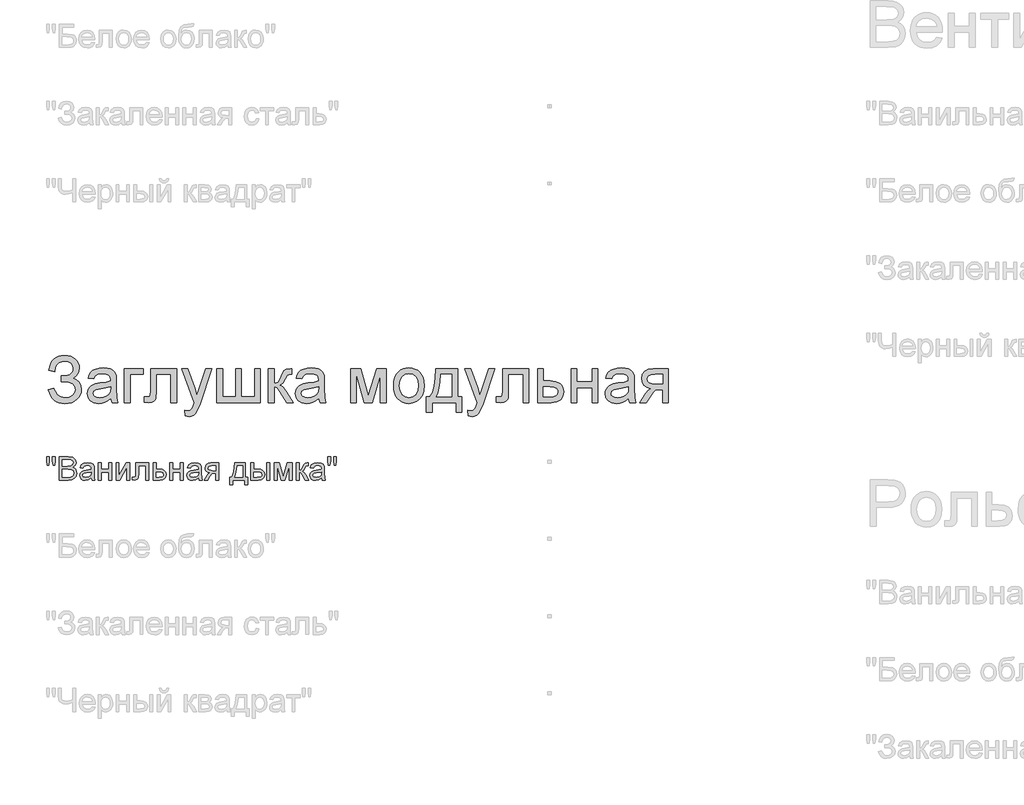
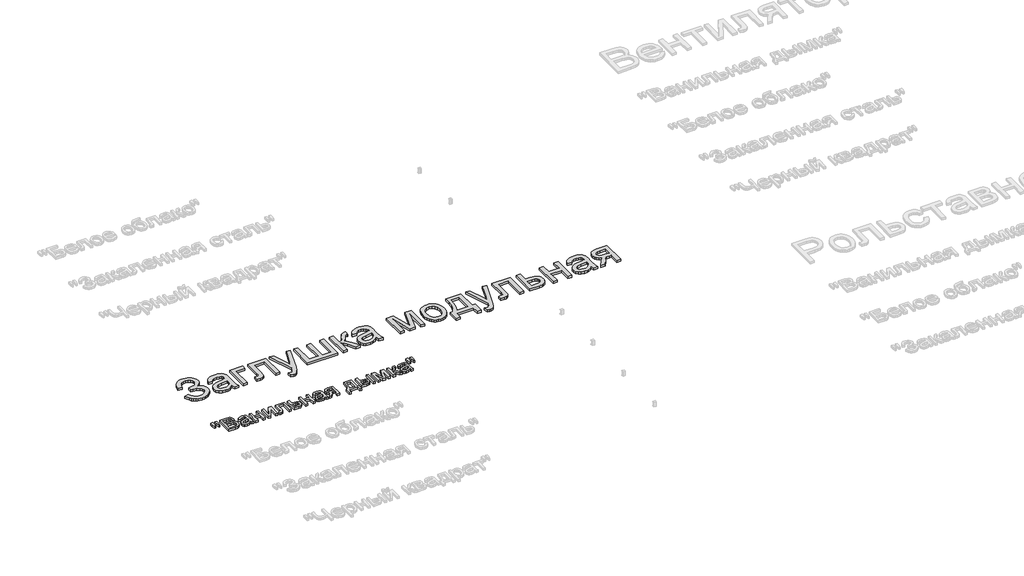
# One storey, part 68 of 168: 2 proxies.
"""IFC4 building model written with IfcOpenShell, lengths in millimetres."""

from ifc_helpers import new_model, si_unit, origin, origin_with_axes, place, context, project, spatial, polyline, outline, extrude, element, save

model = new_model("IFC4")

# Units and contexts
model_context = context("Model", 3, world=origin())
ifc_project = project(units=[si_unit("LENGTHUNIT", "METRE", prefix="MILLI")], contexts=[model_context])

# Site, building, storey
site = spatial("IfcSite", under=ifc_project)
building = spatial("IfcBuilding", under=site)
storey = spatial("IfcBuildingStorey", under=building, Name="Этаж 01", Elevation=0.0)

# Proxies
placement = place(None, origin())
element("IfcBuildingElementProxy", 1, Name="300 мм Arial 2", ObjectType="300 мм Arial 2", at=placement, inside=storey, context=model_context, shape_type="SweptSolid", body=[
    extrude(outline(polyline([(49084.967833, -34182.102286), (49122.6389493, -34172.684507), (49130.5943975, -34193.0743666), (49145.7787268, -34213.4826202), (49167.6401144, -34228.7957083), (49195.6267372, -34233.900071), (49223.981242, -34230.0649012), (49245.6219003, -34218.5593918), (49259.3347017, -34201.6276229), (49263.9056355, -34181.5136749), (49258.9116374, -34160.4432336), (49243.9296432, -34144.1736523), (49220.3392102, -34133.7717889), (49189.5198961, -34130.3045011), (49169.7278447, -34130.3045011), (49169.7278447, -34092.6333848), (49212.365368, -34089.5799643), (49226.2621103, -34084.1537048), (49238.4482014, -34073.9817677), (49246.9462755, -34060.581666), (49249.7789669, -34045.470913), (49246.0081764, -34027.7298038), (49234.6958051, -34012.4718981), (49216.9454988, -34001.9596701), (49193.8609036, -33998.4555941), (49172.9927974, -34001.1503297), (49155.4172351, -34009.2345365), (49141.9527541, -34021.7701155), (49133.4178918, -34037.8189675), (49127.3478389, -34064.3800476), (49089.6767226, -34054.9622685), (49101.3799686, -34013.7594851), (49110.7942987, -33997.5726773), (49122.583767, -33984.3289254), (49136.7483735, -33974.0282296), (49153.2881181, -33966.6705897), (49172.2030008, -33962.2560057), (49193.4930216, -33960.7844777), (49214.0047421, -33962.3134873), (49232.276981, -33966.9005159), (49248.3097382, -33974.5455636), (49262.1030137, -33985.2486304), (49273.1923566, -33997.9980408), (49281.1133158, -34011.7821193), (49285.8658913, -34026.6008659), (49287.4500832, -34042.4542807), (49284.9852738, -34062.2785217), (49277.5908457, -34079.7391209), (49265.2667989, -34094.8360783), (49248.0131333, -34107.5693938), (49268.9640129, -34117.2170991), (49286.1992844, -34133.5050745), (49297.732385, -34155.0353682), (49301.5767518, -34180.4100289), (49299.7327433, -34199.0409527), (49294.2007178, -34216.0853853), (49284.9806753, -34231.5433269), (49272.0726158, -34245.4147774), (49256.1203328, -34256.8582067), (49237.7676197, -34265.0320848), (49217.0144767, -34269.9364117), (49193.8609036, -34271.5711873), (49155.6563584, -34265.9793809), (49139.2994052, -34258.989623), (49124.7726649, -34249.203962), (49112.0761376, -34236.6223977), (49101.2098231, -34221.2449303), (49084.967833, -34182.102286)])), origin_with_axes(), (0.0, 0.0, 1.0), 20.0),
    extrude(outline(polyline([(49489.9323333, -34238.6089605), (49471.9337067, -34254.0416102), (49453.4016512, -34264.139971), (49433.9131025, -34269.7133832), (49413.0449963, -34271.5711873), (49381.5634946, -34267.101421), (49358.3409437, -34253.6921223), (49344.021137, -34233.3298539), (49339.2478681, -34208.0011785), (49341.0504899, -34192.3845878), (49346.4583552, -34178.2027369), (49354.8000795, -34166.0626311), (49365.404278, -34156.5712756), (49391.781417, -34144.2104405), (49424.3757618, -34138.5450578), (49462.8930067, -34132.5853695), (49489.7116041, -34125.5956116), (49489.9323333, -34117.2079021), (49487.3387653, -34100.3956949), (49479.5580611, -34089.3960233), (49462.1572427, -34081.229043), (49437.9138192, -34078.5067162), (49415.4730175, -34080.318535), (49399.8012445, -34085.7539915), (49389.1142726, -34095.806367), (49381.627874, -34111.468943), (49343.9567576, -34106.7600534), (49350.4958601, -34086.1586617), (49360.25393, -34069.9718539), (49374.1414754, -34057.5926248), (49393.069004, -34048.413969), (49416.2179786, -34042.7301922), (49442.7698616, -34040.8355999), (49468.2364927, -34042.509463), (49488.4240172, -34047.5310522), (49503.6451347, -34055.0818302), (49514.212545, -34064.3432594), (49521.220697, -34075.7935865), (49525.7640397, -34089.9110581), (49527.6034496, -34122.8732848), (49527.6034496, -34169.741451), (49529.516436, -34235.1876579), (49537.0212287, -34266.8622977), (49499.3501124, -34266.8622977), (49489.9323333, -34238.6089605)]), holes=[polyline([(49489.9323333, -34163.2667279), (49429.1582277, -34174.8182225), (49396.747824, -34180.9250637), (49382.0693323, -34190.8578775), (49376.9189844, -34205.3524281), (49379.7240846, -34216.5544349), (49388.1393853, -34225.7330907), (49401.9809453, -34231.8583259), (49421.0648238, -34233.900071), (49441.2983336, -34231.6467937), (49459.1773985, -34224.8869621), (49473.6719491, -34214.9265571), (49483.7519158, -34203.0715598), (49488.2216821, -34190.8578775), (49489.7116041, -34173.9353058), (49489.9323333, -34163.2667279)])]), origin_with_axes(), (0.0, 0.0, 1.0), 20.0),
    extrude(outline(polyline([(49579.4012346, -34045.5444894), (49701.8323626, -34045.5444894), (49701.8323626, -34083.2156057), (49617.0723509, -34083.2156057), (49617.0723509, -34266.8622977), (49579.4012346, -34266.8622977), (49579.4012346, -34045.5444894)])), origin_with_axes(), (0.0, 0.0, 1.0), 20.0),
    extrude(outline(polyline([(49748.9212579, -34045.5444894), (49918.4412813, -34045.5444894), (49918.4412813, -34266.6415685), (49880.770165, -34266.6415685), (49880.770165, -34083.2156057), (49786.5923742, -34083.2156057), (49786.5923742, -34188.7977384), (49784.0539885, -34237.5053145), (49779.2991137, -34248.5325773), (49770.1112609, -34258.069918), (49756.1685332, -34264.6642028), (49737.1490341, -34266.8622977), (49706.5412521, -34264.9493114), (49706.5412521, -34229.1911814), (49723.3902475, -34229.1911814), (49740.4231838, -34226.8735249), (49747.2290008, -34219.515885), (49748.9212579, -34186.6640228), (49748.9212579, -34045.5444894)])), origin_with_axes(), (0.0, 0.0, 1.0), 20.0),
    extrude(outline(polyline([(49974.9479558, -34351.6223094), (49970.2390662, -34315.3491447), (49989.36893, -34318.6600827), (50007.247995, -34314.5030161), (50018.2108784, -34302.9147333), (50028.5115743, -34275.1764308), (50031.4546302, -34266.0529573), (49951.4035081, -34045.5444894), (49991.1347636, -34045.5444894), (50033.5883458, -34168.4170758), (50048.377202, -34217.5661104), (50063.1660582, -34174.1560349), (50106.7968628, -34045.5444894), (50146.2338127, -34045.5444894), (50069.1993229, -34272.1597985), (50049.1865424, -34321.308833), (50038.9410288, -34336.9990001), (50027.3343519, -34347.8699131), (50013.8514768, -34354.2158775), (49997.9773687, -34356.331199), (49974.9479558, -34351.6223094)])), origin_with_axes(), (0.0, 0.0, 1.0), 20.0),
    extrude(outline(polyline([(50177.4302059, -34045.5444894), (50215.1013222, -34045.5444894), (50215.1013222, -34229.1911814), (50299.8613339, -34229.1911814), (50299.8613339, -34045.5444894), (50337.5324502, -34045.5444894), (50337.5324502, -34229.1911814), (50422.2924619, -34229.1911814), (50422.2924619, -34045.5444894), (50459.9635782, -34045.5444894), (50459.9635782, -34266.8622977), (50177.4302059, -34266.8622977), (50177.4302059, -34045.5444894)])), origin_with_axes(), (0.0, 0.0, 1.0), 20.0),
    extrude(outline(polyline([(50511.7613631, -34045.5444894), (50549.4324794, -34045.5444894), (50549.4324794, -34139.7222802), (50564.7547645, -34138.030023), (50574.6691843, -34132.9532515), (50583.4431699, -34119.7094997), (50595.3441524, -34093.5163016), (50612.5242416, -34059.4872171), (50627.6809798, -34048.413969), (50655.2353413, -34045.5444894), (50662.4458284, -34045.5444894), (50662.4458284, -34083.4363349), (50652.2922853, -34083.2156057), (50633.8981855, -34087.1887313), (50620.9487393, -34111.9839778), (50605.7552129, -34138.8025752), (50584.4548454, -34151.9359624), (50596.3926161, -34157.2380617), (50608.2200223, -34166.5960599), (50631.5437408, -34197.4797534), (50671.8636074, -34266.8622977), (50629.0421432, -34266.8622977), (50589.5316169, -34198.9512814), (50569.6659892, -34170.2196976), (50560.3769688, -34165.0049703), (50549.4324794, -34163.2667279), (50549.4324794, -34266.8622977), (50511.7613631, -34266.8622977), (50511.7613631, -34045.5444894)])), origin_with_axes(), (0.0, 0.0, 1.0), 20.0),
    extrude(outline(polyline([(50836.6747413, -34238.6089605), (50818.6761147, -34254.0416102), (50800.1440592, -34264.139971), (50780.6555105, -34269.7133832), (50759.7874043, -34271.5711873), (50728.3059025, -34267.101421), (50705.0833516, -34253.6921223), (50690.7635449, -34233.3298539), (50685.9902761, -34208.0011785), (50687.7928978, -34192.3845878), (50693.2007632, -34178.2027369), (50701.5424874, -34166.0626311), (50712.1466859, -34156.5712756), (50738.523825, -34144.2104405), (50771.1181697, -34138.5450578), (50809.6354146, -34132.5853695), (50836.4540121, -34125.5956116), (50836.6747413, -34117.2079021), (50834.0811732, -34100.3956949), (50826.300469, -34089.3960233), (50808.8996506, -34081.229043), (50784.6562272, -34078.5067162), (50762.2154255, -34080.318535), (50746.5436525, -34085.7539915), (50735.8566805, -34095.806367), (50728.3702819, -34111.468943), (50690.6991656, -34106.7600534), (50697.2382681, -34086.1586617), (50706.996338, -34069.9718539), (50720.8838833, -34057.5926248), (50739.8114119, -34048.413969), (50762.9603865, -34042.7301922), (50789.5122695, -34040.8355999), (50814.9789006, -34042.509463), (50835.1664251, -34047.5310522), (50850.3875426, -34055.0818302), (50860.954953, -34064.3432594), (50867.963105, -34075.7935865), (50872.5064476, -34089.9110581), (50874.3458576, -34122.8732848), (50874.3458576, -34169.741451), (50876.258844, -34235.1876579), (50883.7636367, -34266.8622977), (50846.0925204, -34266.8622977), (50836.6747413, -34238.6089605)]), holes=[polyline([(50836.6747413, -34163.2667279), (50775.9006357, -34174.8182225), (50743.4902319, -34180.9250637), (50728.8117403, -34190.8578775), (50723.6613924, -34205.3524281), (50726.4664926, -34216.5544349), (50734.8817932, -34225.7330907), (50748.7233533, -34231.8583259), (50767.8072318, -34233.900071), (50788.0407415, -34231.6467937), (50805.9198065, -34224.8869621), (50820.4143571, -34214.9265571), (50830.4943238, -34203.0715598), (50834.96409, -34190.8578775), (50836.4540121, -34173.9353058), (50836.6747413, -34163.2667279)])]), origin_with_axes(), (0.0, 0.0, 1.0), 20.0),
    extrude(outline(polyline([(51043.865881, -34045.5444894), (51108.6866885, -34045.5444894), (51158.6450635, -34222.7164583), (51212.5029875, -34045.5444894), (51274.6014683, -34045.5444894), (51274.6014683, -34266.8622977), (51236.930352, -34266.8622977), (51236.930352, -34088.6602593), (51182.7781223, -34266.8622977), (51133.3347822, -34266.8622977), (51081.5369973, -34080.125397), (51081.5369973, -34266.8622977), (51043.865881, -34266.8622977), (51043.865881, -34045.5444894)])), origin_with_axes(), (0.0, 0.0, 1.0), 20.0),
    extrude(outline(polyline([(51321.6903637, -34156.2033936), (51323.7275103, -34127.5407876), (51329.8389499, -34102.8421102), (51340.0246827, -34082.1073612), (51354.2847085, -34065.3365408), (51368.6413034, -34054.6173791), (51384.4878203, -34046.9608351), (51401.8242593, -34042.3669087), (51420.6506204, -34040.8355999), (51441.4336539, -34042.7003018), (51460.2255261, -34048.2944073), (51477.0262369, -34057.6179167), (51491.8357865, -34070.6708297), (51503.9230093, -34087.0116881), (51512.5567399, -34106.1990334), (51517.7369782, -34128.2328656), (51519.4637243, -34153.1131848), (51516.4103038, -34191.1705772), (51507.2500421, -34220.1412843), (51492.2496537, -34241.837125), (51471.6758532, -34258.069918), (51447.2392916, -34268.19587), (51420.6506204, -34271.5711873), (51399.5640843, -34269.7133832), (51380.5974682, -34264.139971), (51363.7507721, -34254.8509506), (51349.023996, -34241.8463221), (51337.0655319, -34225.3468146), (51328.5237718, -34205.5731573), (51323.3987157, -34182.5253503), (51321.6903637, -34156.2033936)]), holes=[polyline([(51359.36148, -34156.1298172), (51363.7208817, -34190.2232811), (51376.7990866, -34214.5126898), (51396.4807733, -34229.0532257), (51420.6506204, -34233.900071), (51444.7101029, -34229.0256345), (51464.3550014, -34214.4023252), (51477.4332064, -34189.7910197), (51481.792608, -34154.9525948), (51477.4056152, -34121.8524123), (51464.2446368, -34097.8940973), (51444.5721472, -34083.3535615), (51420.6506204, -34078.5067162), (51396.4807733, -34083.3351674), (51376.7990866, -34097.820521), (51363.7208817, -34122.0547474), (51359.36148, -34156.1298172)])]), origin_with_axes(), (0.0, 0.0, 1.0), 20.0),
    extrude(outline(polyline([(51594.8059569, -34045.5444894), (51736.0726431, -34045.5444894), (51736.0726431, -34229.1911814), (51764.3259803, -34229.1911814), (51764.3259803, -34328.0778617), (51726.654864, -34328.0778617), (51726.654864, -34266.8622977), (51571.2615092, -34266.8622977), (51571.2615092, -34328.0778617), (51533.5903929, -34328.0778617), (51533.5903929, -34229.1911814), (51557.1348406, -34229.1911814), (51574.2505505, -34198.2615027), (51586.2343064, -34157.3438278), (51593.0861086, -34106.4381567), (51594.8059569, -34045.5444894)]), holes=[polyline([(51627.7681837, -34083.2156057), (51624.6779749, -34129.3388109), (51618.9390158, -34169.0424752), (51610.5513063, -34202.3265987), (51599.5148465, -34229.1911814), (51698.4015268, -34229.1911814), (51698.4015268, -34083.2156057), (51627.7681837, -34083.2156057)])]), origin_with_axes(), (0.0, 0.0, 1.0), 20.0),
    extrude(outline(polyline([(51806.7059862, -34351.6223094), (51801.9970966, -34315.3491447), (51821.1269604, -34318.6600827), (51839.0060253, -34314.5030161), (51849.9689088, -34302.9147333), (51860.2696047, -34275.1764308), (51863.2126606, -34266.0529573), (51783.1615385, -34045.5444894), (51822.8927939, -34045.5444894), (51865.3463762, -34168.4170758), (51880.1352324, -34217.5661104), (51894.9240886, -34174.1560349), (51938.5548932, -34045.5444894), (51977.9918431, -34045.5444894), (51900.9573533, -34272.1597985), (51880.9445728, -34321.308833), (51870.6990592, -34336.9990001), (51859.0923823, -34347.8699131), (51845.6095071, -34354.2158775), (51829.7353991, -34356.331199), (51806.7059862, -34351.6223094)])), origin_with_axes(), (0.0, 0.0, 1.0), 20.0),
    extrude(outline(polyline([(52028.0237945, -34045.5444894), (52197.5438178, -34045.5444894), (52197.5438178, -34266.6415685), (52159.8727015, -34266.6415685), (52159.8727015, -34083.2156057), (52065.6949108, -34083.2156057), (52065.6949108, -34188.7977384), (52063.156525, -34237.5053145), (52058.4016502, -34248.5325773), (52049.2137974, -34258.069918), (52035.2710698, -34264.6642028), (52016.2515706, -34266.8622977), (51985.6437886, -34264.9493114), (51985.6437886, -34229.1911814), (52002.492784, -34229.1911814), (52019.5257204, -34226.8735249), (52026.3315373, -34219.515885), (52028.0237945, -34186.6640228), (52028.0237945, -34045.5444894)])), origin_with_axes(), (0.0, 0.0, 1.0), 20.0),
    extrude(outline(polyline([(52254.0504923, -34045.5444894), (52291.7216086, -34045.5444894), (52291.7216086, -34125.5956116), (52335.131684, -34125.5956116), (52372.7660121, -34130.3136982), (52387.9135533, -34136.2113064), (52400.6146792, -34144.4679579), (52410.6578576, -34154.7985442), (52417.8315565, -34166.9179567), (52423.5705157, -34196.5232603), (52418.6868822, -34223.4798135), (52404.0359817, -34246.2241178), (52392.8040846, -34255.2533215), (52378.642927, -34261.7027528), (52341.5328307, -34266.8622977), (52254.0504923, -34266.8622977), (52254.0504923, -34045.5444894)]), holes=[polyline([(52291.7216086, -34229.1911814), (52326.8911273, -34229.1911814), (52354.1787743, -34227.2138157), (52372.3245537, -34221.2817185), (52382.505688, -34211.1557666), (52385.8993994, -34196.5968367), (52383.3886047, -34184.2911839), (52375.8562209, -34173.420271), (52359.7153984, -34165.8051137), (52331.3792877, -34163.2667279), (52291.7216086, -34163.2667279), (52291.7216086, -34229.1911814)])]), origin_with_axes(), (0.0, 0.0, 1.0), 20.0),
    extrude(outline(polyline([(52470.6594111, -34045.5444894), (52508.3305274, -34045.5444894), (52508.3305274, -34130.3045011), (52607.2172077, -34130.3045011), (52607.2172077, -34045.5444894), (52644.888324, -34045.5444894), (52644.888324, -34266.8622977), (52607.2172077, -34266.8622977), (52607.2172077, -34167.9756174), (52508.3305274, -34167.9756174), (52508.3305274, -34266.8622977), (52470.6594111, -34266.8622977), (52470.6594111, -34045.5444894)])), origin_with_axes(), (0.0, 0.0, 1.0), 20.0),
    extrude(outline(polyline([(52842.6616846, -34238.6089605), (52824.663058, -34254.0416102), (52806.1310025, -34264.139971), (52786.6424538, -34269.7133832), (52765.7743476, -34271.5711873), (52734.2928458, -34267.101421), (52711.0702949, -34253.6921223), (52696.7504882, -34233.3298539), (52691.9772194, -34208.0011785), (52693.7798411, -34192.3845878), (52699.1877065, -34178.2027369), (52707.5294307, -34166.0626311), (52718.1336292, -34156.5712756), (52744.5107683, -34144.2104405), (52777.105113, -34138.5450578), (52815.6223579, -34132.5853695), (52842.4409554, -34125.5956116), (52842.6616846, -34117.2079021), (52840.0681165, -34100.3956949), (52832.2874123, -34089.3960233), (52814.8865939, -34081.229043), (52790.6431705, -34078.5067162), (52768.2023688, -34080.318535), (52752.5305958, -34085.7539915), (52741.8436238, -34095.806367), (52734.3572252, -34111.468943), (52696.6861089, -34106.7600534), (52703.2252114, -34086.1586617), (52712.9832813, -34069.9718539), (52726.8708266, -34057.5926248), (52745.7983552, -34048.413969), (52768.9473298, -34042.7301922), (52795.4992128, -34040.8355999), (52820.9658439, -34042.509463), (52841.1533684, -34047.5310522), (52856.3744859, -34055.0818302), (52866.9418963, -34064.3432594), (52873.9500483, -34075.7935865), (52878.4933909, -34089.9110581), (52880.3328009, -34122.8732848), (52880.3328009, -34169.741451), (52882.2457873, -34235.1876579), (52889.75058, -34266.8622977), (52852.0794637, -34266.8622977), (52842.6616846, -34238.6089605)]), holes=[polyline([(52842.6616846, -34163.2667279), (52781.887579, -34174.8182225), (52749.4771752, -34180.9250637), (52734.7986836, -34190.8578775), (52729.6483357, -34205.3524281), (52732.4534359, -34216.5544349), (52740.8687365, -34225.7330907), (52754.7102966, -34231.8583259), (52773.7941751, -34233.900071), (52794.0276848, -34231.6467937), (52811.9067498, -34224.8869621), (52826.4013004, -34214.9265571), (52836.4812671, -34203.0715598), (52840.9510333, -34190.8578775), (52842.4409554, -34173.9353058), (52842.6616846, -34163.2667279)])]), origin_with_axes(), (0.0, 0.0, 1.0), 20.0),
    extrude(outline(polyline([(53101.6506092, -34045.5444894), (53101.6506092, -34266.8622977), (53063.9794929, -34266.8622977), (53063.9794929, -34182.102286), (53043.4516775, -34182.102286), (53015.4926459, -34186.884752), (53004.3274274, -34197.3142065), (52989.2258715, -34219.0376384), (52959.2067006, -34266.8622977), (52915.6494724, -34266.8622977), (52953.4677415, -34206.3824977), (52970.1695841, -34184.67746), (52985.5470515, -34175.0389517), (52959.7953118, -34167.1478829), (52941.6955177, -34152.1566916), (52930.9901516, -34132.2174875), (52927.4216963, -34109.4823802), (52932.2961327, -34083.6938523), (52946.919442, -34063.2764016), (52970.7765894, -34049.9774675), (53003.3525401, -34045.5444894), (53101.6506092, -34045.5444894)]), holes=[polyline([(53063.9794929, -34083.2156057), (53014.3154235, -34083.2156057), (52988.6648514, -34085.3953066), (52974.1059215, -34091.934409), (52967.3460898, -34101.3981734), (52965.0928126, -34112.3518598), (52968.4129476, -34126.7084546), (52978.3733526, -34136.6688596), (52996.7766494, -34142.4905922), (53025.4254598, -34144.4311697), (53063.9794929, -34144.4311697), (53063.9794929, -34083.2156057)])]), origin_with_axes(), (0.0, 0.0, 1.0), 20.0),
])
element("IfcBuildingElementProxy", 2, Name="150", ObjectType="150", at=placement, inside=storey, context=model_context, shape_type="SweptSolid", body=[
    extrude(outline(polyline([(49080.1485789, -34670.3300622), (49075.550054, -34641.2305964), (49075.550054, -34616.1778325), (49094.3856121, -34616.1778325), (49094.3856121, -34641.2305964), (49090.2653338, -34670.3300622), (49080.1485789, -34670.3300622)])), origin_with_axes(), (0.0, 0.0, 1.0), 20.0),
    extrude(outline(polyline([(49117.7093306, -34670.3300622), (49113.2211703, -34641.2305964), (49113.2211703, -34616.1778325), (49132.0567284, -34616.1778325), (49132.0567284, -34641.2305964), (49127.6421445, -34670.3300622), (49117.7093306, -34670.3300622)])), origin_with_axes(), (0.0, 0.0, 1.0), 20.0),
    extrude(outline(polyline([(49157.9556209, -34766.8622977), (49157.9556209, -34616.1778325), (49215.4555767, -34616.1778325), (49243.6169435, -34620.6108106), (49253.0807078, -34626.2348066), (49260.2452096, -34634.2408385), (49266.2600803, -34653.517855), (49261.2017028, -34671.1210085), (49245.9162059, -34684.4567308), (49256.5893823, -34690.030143), (49264.4758526, -34698.509823), (49269.3456905, -34709.3347507), (49270.9689698, -34721.9439061), (49266.5359918, -34742.19581), (49255.5547142, -34756.6167842), (49239.1655713, -34764.2687297), (49215.0141183, -34766.8622977), (49157.9556209, -34766.8622977)]), holes=[polyline([(49176.791179, -34677.3933965), (49211.1881456, -34677.3933965), (49231.2745025, -34675.7747157), (49243.3594261, -34668.8033519), (49247.4245221, -34656.5344874), (49243.6353376, -34644.2472287), (49232.7828187, -34636.9815593), (49208.5761834, -34635.0133907), (49176.791179, -34635.0133907), (49176.791179, -34677.3933965)]), polyline([(49176.791179, -34748.0267396), (49215.4187885, -34748.0267396), (49229.3983043, -34747.2909756), (49241.2257105, -34743.1890913), (49249.061597, -34734.819776), (49252.1334117, -34722.1278471), (49248.5281681, -34707.4861437), (49236.8479148, -34698.7489463), (49213.5793786, -34696.2289547), (49176.791179, -34696.2289547), (49176.791179, -34748.0267396)])]), origin_with_axes(), (0.0, 0.0, 1.0), 20.0),
    extrude(outline(polyline([(49365.1467606, -34752.7356291), (49346.8814195, -34765.5011344), (49326.7030921, -34769.2167425), (49310.9623412, -34766.9818594), (49299.3510657, -34760.27721), (49292.1911624, -34750.0960758), (49289.804528, -34737.4317381), (49293.4097715, -34722.5325173), (49302.8827329, -34711.7167867), (49316.0713024, -34705.5363691), (49332.3684748, -34702.7036778), (49365.036396, -34696.2289547), (49365.1467606, -34692.0350999), (49363.8499765, -34683.6289963), (49359.9596244, -34678.1291605), (49351.2592153, -34674.0456704), (49339.1375035, -34672.684507), (49320.0812162, -34676.3081446), (49310.9945309, -34689.1656204), (49292.1589727, -34686.8111756), (49300.3075589, -34668.4170758), (49316.7150959, -34657.6381334), (49341.5655247, -34653.8489488), (49364.3926025, -34657.196675), (49377.2868664, -34665.6027786), (49383.0626137, -34678.3866779), (49383.9823187, -34694.8677913), (49383.9823187, -34718.3018744), (49384.9388119, -34751.0249778), (49388.6912083, -34766.8622977), (49369.8556501, -34766.8622977), (49365.1467606, -34752.7356291)]), holes=[polyline([(49365.1467606, -34715.0645128), (49334.7597078, -34720.8402601), (49318.5545059, -34723.8936807), (49311.2152601, -34728.8600876), (49308.6400861, -34736.1073629), (49314.2502865, -34746.2976942), (49330.7130058, -34750.3811843), (49349.7692932, -34745.8746299), (49362.0565518, -34734.9669288), (49365.036396, -34720.3988017), (49365.1467606, -34715.0645128)])]), origin_with_axes(), (0.0, 0.0, 1.0), 20.0),
    extrude(outline(polyline([(49409.8812112, -34656.2033936), (49428.7167693, -34656.2033936), (49428.7167693, -34698.5833994), (49478.1601095, -34698.5833994), (49478.1601095, -34656.2033936), (49496.9956676, -34656.2033936), (49496.9956676, -34766.8622977), (49478.1601095, -34766.8622977), (49478.1601095, -34717.4189576), (49428.7167693, -34717.4189576), (49428.7167693, -34766.8622977), (49409.8812112, -34766.8622977), (49409.8812112, -34656.2033936)])), origin_with_axes(), (0.0, 0.0, 1.0), 20.0),
    extrude(outline(polyline([(49525.2490049, -34656.2033936), (49544.084563, -34656.2033936), (49544.084563, -34740.5955233), (49590.364118, -34656.2033936), (49614.7179061, -34656.2033936), (49614.7179061, -34766.8622977), (49595.8823479, -34766.8622977), (49595.8823479, -34682.9852028), (49549.8970985, -34766.8622977), (49525.2490049, -34766.8622977), (49525.2490049, -34656.2033936)])), origin_with_axes(), (0.0, 0.0, 1.0), 20.0),
    extrude(outline(polyline([(49652.3890224, -34656.2033936), (49737.1490341, -34656.2033936), (49737.1490341, -34766.7519331), (49718.3134759, -34766.7519331), (49718.3134759, -34675.0389517), (49671.2245806, -34675.0389517), (49671.2245806, -34727.830018), (49669.9553877, -34752.1838061), (49662.9840239, -34762.4661079), (49646.5029105, -34766.8622977), (49631.1990195, -34765.9058045), (49631.1990195, -34748.0267396), (49639.6235172, -34748.0267396), (49648.1399854, -34746.8679113), (49651.5428938, -34743.1890913), (49652.3890224, -34726.7631603), (49652.3890224, -34656.2033936)])), origin_with_axes(), (0.0, 0.0, 1.0), 20.0),
    extrude(outline(polyline([(49765.4023713, -34656.2033936), (49784.2379295, -34656.2033936), (49784.2379295, -34696.2289547), (49805.9429672, -34696.2289547), (49824.7601312, -34698.587998), (49838.6844648, -34705.6651278), (49847.2929034, -34716.8901272), (49850.162383, -34731.692779), (49847.7205663, -34745.1710556), (49840.395116, -34756.5432078), (49827.6985887, -34764.2825252), (49809.1435405, -34766.8622977), (49765.4023713, -34766.8622977), (49765.4023713, -34656.2033936)]), holes=[polyline([(49784.2379295, -34748.0267396), (49801.8226888, -34748.0267396), (49824.539402, -34744.0720081), (49829.6299692, -34739.0090322), (49831.3268249, -34731.7295672), (49826.3052356, -34720.1412843), (49818.2348244, -34716.3337057), (49804.066769, -34715.0645128), (49784.2379295, -34715.0645128), (49784.2379295, -34748.0267396)])]), origin_with_axes(), (0.0, 0.0, 1.0), 20.0),
    extrude(outline(polyline([(49873.7068307, -34656.2033936), (49892.5423889, -34656.2033936), (49892.5423889, -34698.5833994), (49941.985729, -34698.5833994), (49941.985729, -34656.2033936), (49960.8212872, -34656.2033936), (49960.8212872, -34766.8622977), (49941.985729, -34766.8622977), (49941.985729, -34717.4189576), (49892.5423889, -34717.4189576), (49892.5423889, -34766.8622977), (49873.7068307, -34766.8622977), (49873.7068307, -34656.2033936)])), origin_with_axes(), (0.0, 0.0, 1.0), 20.0),
    extrude(outline(polyline([(50059.7079675, -34752.7356291), (50041.4426264, -34765.5011344), (50021.264299, -34769.2167425), (50005.5235481, -34766.9818594), (49993.9122726, -34760.27721), (49986.7523693, -34750.0960758), (49984.3657349, -34737.4317381), (49987.9709784, -34722.5325173), (49997.4439398, -34711.7167867), (50010.6325093, -34705.5363691), (50026.9296817, -34702.7036778), (50059.5976029, -34696.2289547), (50059.7079675, -34692.0350999), (50058.4111834, -34683.6289963), (50054.5208313, -34678.1291605), (50045.8204221, -34674.0456704), (50033.6987104, -34672.684507), (50014.6424231, -34676.3081446), (50005.5557378, -34689.1656204), (49986.7201796, -34686.8111756), (49994.8687658, -34668.4170758), (50011.2763028, -34657.6381334), (50036.1267316, -34653.8489488), (50058.9538094, -34657.196675), (50071.8480733, -34665.6027786), (50077.6238206, -34678.3866779), (50078.5435256, -34694.8677913), (50078.5435256, -34718.3018744), (50079.5000188, -34751.0249778), (50083.2524152, -34766.8622977), (50064.416857, -34766.8622977), (50059.7079675, -34752.7356291)]), holes=[polyline([(50059.7079675, -34715.0645128), (50029.3209147, -34720.8402601), (50013.1157128, -34723.8936807), (50005.776467, -34728.8600876), (50003.201293, -34736.1073629), (50008.8114934, -34746.2976942), (50025.2742127, -34750.3811843), (50044.3305001, -34745.8746299), (50056.6177587, -34734.9669288), (50059.5976029, -34720.3988017), (50059.7079675, -34715.0645128)])]), origin_with_axes(), (0.0, 0.0, 1.0), 20.0),
    extrude(outline(polyline([(50189.2024298, -34656.2033936), (50189.2024298, -34766.8622977), (50170.3668716, -34766.8622977), (50170.3668716, -34724.4822919), (50160.1029639, -34724.4822919), (50146.1234481, -34726.8735249), (50132.9900609, -34742.949968), (50117.9804755, -34766.8622977), (50096.2018614, -34766.8622977), (50115.1109959, -34736.6223977), (50123.4619172, -34725.7698789), (50131.1506509, -34720.9506247), (50118.2747811, -34717.0050903), (50109.224884, -34709.5094947), (50103.872201, -34699.5398926), (50102.0879733, -34688.172339), (50104.5251915, -34675.278075), (50111.8368462, -34665.0693497), (50123.7654199, -34658.4198826), (50140.0533952, -34656.2033936), (50189.2024298, -34656.2033936)]), holes=[polyline([(50170.3668716, -34675.0389517), (50145.5348369, -34675.0389517), (50132.7095509, -34676.1288021), (50125.4300859, -34679.3983534), (50120.9235315, -34689.6070787), (50122.583599, -34696.7853762), (50127.5638015, -34701.7655787), (50151.0898551, -34705.6467337), (50170.3668716, -34705.6467337), (50170.3668716, -34675.0389517)])]), origin_with_axes(), (0.0, 0.0, 1.0), 20.0),
    extrude(outline(polyline([(50292.7979996, -34656.2033936), (50363.4313427, -34656.2033936), (50363.4313427, -34748.0267396), (50377.5580113, -34748.0267396), (50377.5580113, -34797.4700797), (50358.7224531, -34797.4700797), (50358.7224531, -34766.8622977), (50281.0257758, -34766.8622977), (50281.0257758, -34797.4700797), (50262.1902176, -34797.4700797), (50262.1902176, -34748.0267396), (50273.9624415, -34748.0267396), (50282.5202964, -34732.5619002), (50288.5121744, -34712.1030628), (50292.7979996, -34656.2033936)]), holes=[polyline([(50309.279113, -34675.0389517), (50304.864529, -34717.9523865), (50295.1524444, -34748.0267396), (50344.5957845, -34748.0267396), (50344.5957845, -34675.0389517), (50309.279113, -34675.0389517)])]), origin_with_axes(), (0.0, 0.0, 1.0), 20.0),
    extrude(outline(polyline([(50502.3435841, -34656.2033936), (50521.1791422, -34656.2033936), (50521.1791422, -34766.8622977), (50502.3435841, -34766.8622977), (50502.3435841, -34656.2033936)])), origin_with_axes(), (0.0, 0.0, 1.0), 20.0),
    extrude(outline(polyline([(50398.7480142, -34656.2033936), (50417.5835724, -34656.2033936), (50417.5835724, -34696.2289547), (50440.8705027, -34696.2289547), (50460.9982463, -34698.587998), (50475.9112627, -34705.6651278), (50485.1405023, -34716.8901272), (50488.2169154, -34731.692779), (50485.637143, -34745.1710556), (50477.8978255, -34756.5432078), (50464.4931253, -34764.2825252), (50444.9172046, -34766.8622977), (50398.7480142, -34766.8622977), (50398.7480142, -34656.2033936)]), holes=[polyline([(50417.5835724, -34748.0267396), (50436.9341653, -34748.0267396), (50461.9133528, -34744.0720081), (50467.5143562, -34739.0090322), (50469.3813573, -34731.7295672), (50463.8447333, -34720.1412843), (50454.9649816, -34716.3337057), (50439.3989747, -34715.0645128), (50417.5835724, -34715.0645128), (50417.5835724, -34748.0267396)])]), origin_with_axes(), (0.0, 0.0, 1.0), 20.0),
    extrude(outline(polyline([(50549.4324794, -34656.2033936), (50581.8428832, -34656.2033936), (50606.8220707, -34744.789378), (50633.7510327, -34656.2033936), (50664.8002731, -34656.2033936), (50664.8002731, -34766.8622977), (50645.964715, -34766.8622977), (50645.964715, -34677.7612785), (50618.8886001, -34766.8622977), (50594.1669301, -34766.8622977), (50568.2680376, -34673.4938474), (50568.2680376, -34766.8622977), (50549.4324794, -34766.8622977), (50549.4324794, -34656.2033936)])), origin_with_axes(), (0.0, 0.0, 1.0), 20.0),
    extrude(outline(polyline([(50693.0536104, -34656.2033936), (50711.8891685, -34656.2033936), (50711.8891685, -34703.292289), (50724.5075209, -34699.9077746), (50734.845005, -34680.1892997), (50743.4350496, -34663.1747574), (50751.0134187, -34657.6381334), (50764.7905994, -34656.2033936), (50768.395843, -34656.2033936), (50768.395843, -34675.1493163), (50763.3190714, -34675.0389517), (50754.1220216, -34677.0255145), (50747.6472984, -34689.4231377), (50740.0505352, -34702.8324365), (50729.4003515, -34709.3991301), (50741.2829399, -34716.7291788), (50752.9447992, -34732.1710256), (50773.1047325, -34766.8622977), (50751.6940004, -34766.8622977), (50731.9387372, -34732.9067896), (50722.0059234, -34718.5409977), (50711.8891685, -34715.0645128), (50711.8891685, -34766.8622977), (50693.0536104, -34766.8622977), (50693.0536104, -34656.2033936)])), origin_with_axes(), (0.0, 0.0, 1.0), 20.0),
    extrude(outline(polyline([(50855.5102994, -34752.7356291), (50837.2449584, -34765.5011344), (50817.0666309, -34769.2167425), (50801.3258801, -34766.9818594), (50789.7146046, -34760.27721), (50782.5547013, -34750.0960758), (50780.1680668, -34737.4317381), (50783.7733104, -34722.5325173), (50793.2462717, -34711.7167867), (50806.4348413, -34705.5363691), (50822.7320137, -34702.7036778), (50855.3999348, -34696.2289547), (50855.5102994, -34692.0350999), (50854.2135154, -34683.6289963), (50850.3231633, -34678.1291605), (50841.6227541, -34674.0456704), (50829.5010424, -34672.684507), (50810.444755, -34676.3081446), (50801.3580697, -34689.1656204), (50782.5225116, -34686.8111756), (50790.6710978, -34668.4170758), (50807.0786348, -34657.6381334), (50831.9290635, -34653.8489488), (50854.7561413, -34657.196675), (50867.6504053, -34665.6027786), (50873.4261526, -34678.3866779), (50874.3458576, -34694.8677913), (50874.3458576, -34718.3018744), (50875.3023508, -34751.0249778), (50879.0547471, -34766.8622977), (50860.219189, -34766.8622977), (50855.5102994, -34752.7356291)]), holes=[polyline([(50855.5102994, -34715.0645128), (50825.1232466, -34720.8402601), (50808.9180447, -34723.8936807), (50801.5787989, -34728.8600876), (50799.003625, -34736.1073629), (50804.6138254, -34746.2976942), (50821.0765447, -34750.3811843), (50840.132832, -34745.8746299), (50852.4200907, -34734.9669288), (50855.3999348, -34720.3988017), (50855.5102994, -34715.0645128)])]), origin_with_axes(), (0.0, 0.0, 1.0), 20.0),
    extrude(outline(polyline([(50900.1343854, -34670.3300622), (50895.5358605, -34641.2305964), (50895.5358605, -34616.1778325), (50914.3714187, -34616.1778325), (50914.3714187, -34641.2305964), (50910.2511403, -34670.3300622), (50900.1343854, -34670.3300622)])), origin_with_axes(), (0.0, 0.0, 1.0), 20.0),
    extrude(outline(polyline([(50937.6951372, -34670.3300622), (50933.2069768, -34641.2305964), (50933.2069768, -34616.1778325), (50952.042535, -34616.1778325), (50952.042535, -34641.2305964), (50947.627951, -34670.3300622), (50937.6951372, -34670.3300622)])), origin_with_axes(), (0.0, 0.0, 1.0), 20.0),
])

save(model, "model.ifc")
